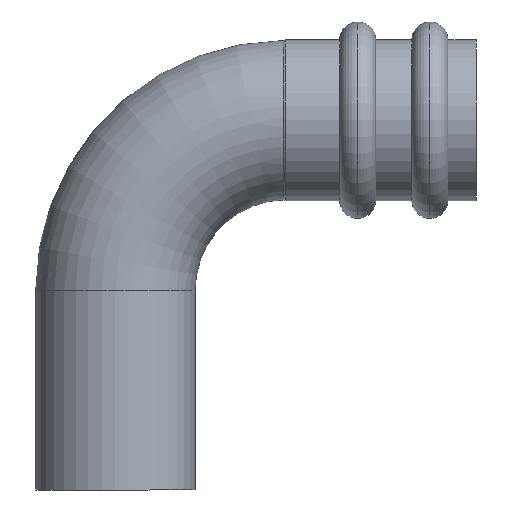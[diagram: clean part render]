
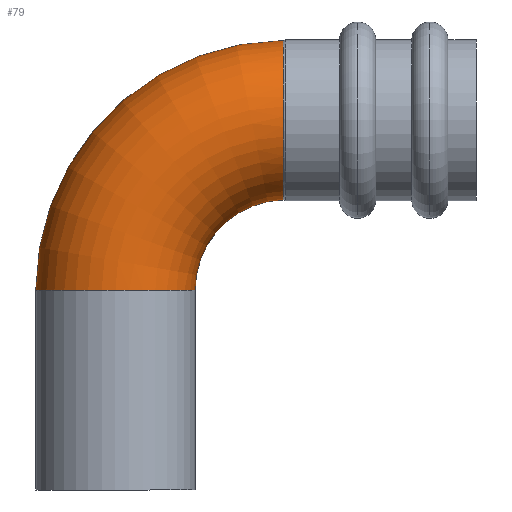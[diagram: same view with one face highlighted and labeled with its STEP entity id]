
A CAD part, front view. The second image highlights one B-rep face of the part: STEP entity #79.
In plain terms, the highlighted toroidal (fillet/blend) face has major radius 33 mm and minor radius 15.466 mm.
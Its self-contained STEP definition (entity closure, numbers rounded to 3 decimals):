
#79=ADVANCED_FACE('',(#202),#203,.T.);
#202=FACE_OUTER_BOUND('',#377,.T.);
#203=TOROIDAL_SURFACE('',#378,33.,15.466);
#377=EDGE_LOOP('',(#553,#554,#555,#556,#557));
#378=AXIS2_PLACEMENT_3D('',#558,#559,#560);
#553=ORIENTED_EDGE('',*,*,#977,.F.);
#554=ORIENTED_EDGE('',*,*,#978,.T.);
#555=ORIENTED_EDGE('',*,*,#979,.T.);
#556=ORIENTED_EDGE('',*,*,#980,.F.);
#557=ORIENTED_EDGE('',*,*,#981,.T.);
#558=CARTESIAN_POINT('',(33.,0.,39.));
#559=DIRECTION('',(0.,1.0,0.));
#560=DIRECTION('',(1.0,0.,0.0));
#977=EDGE_CURVE('',#1145,#1146,#1147,.T.);
#978=EDGE_CURVE('',#1145,#1148,#1149,.T.);
#979=EDGE_CURVE('',#1148,#1150,#1151,.T.);
#980=EDGE_CURVE('',#1152,#1150,#1153,.T.);
#981=EDGE_CURVE('',#1152,#1146,#1154,.T.);
#1145=VERTEX_POINT('',#1500);
#1146=VERTEX_POINT('',#1501);
#1147=CIRCLE('',#1502,48.466);
#1148=VERTEX_POINT('',#1503);
#1149=CIRCLE('',#1504,15.466);
#1150=VERTEX_POINT('',#1505);
#1151=CIRCLE('',#1506,15.466);
#1152=VERTEX_POINT('',#1507);
#1153=CIRCLE('',#1508,17.534);
#1154=B_SPLINE_CURVE_WITH_KNOTS('',3,(#1509,#1510,#1511,#1512,#1513,#1514,#1515,#1516,#1517,#1518,#1519,#1520,#1521,#1522,#1523,#1524,#1525,#1526,#1527,#1528),.UNSPECIFIED.,.F.,.F.,(4,2,2,2,2,2,2,2,2,4),(-1.919,-1.902,-1.658,-1.418,-1.183,-0.948,-0.712,-0.475,-0.238,-0.0),.UNSPECIFIED.);
#1500=CARTESIAN_POINT('',(-15.466,0.,39.));
#1501=CARTESIAN_POINT('',(32.525,0.,87.464));
#1502=AXIS2_PLACEMENT_3D('',#1908,#1909,#1910);
#1503=CARTESIAN_POINT('',(0.,-15.466,39.));
#1504=AXIS2_PLACEMENT_3D('',#1911,#1912,#1913);
#1505=CARTESIAN_POINT('',(15.466,0.,39.));
#1506=AXIS2_PLACEMENT_3D('',#1914,#1915,#1916);
#1507=CARTESIAN_POINT('',(32.546,0.,56.528));
#1508=AXIS2_PLACEMENT_3D('',#1917,#1918,#1919);
#1509=CARTESIAN_POINT('',(32.546,0.,56.528));
#1510=CARTESIAN_POINT('',(32.546,-0.144,56.528));
#1511=CARTESIAN_POINT('',(32.546,-0.287,56.53));
#1512=CARTESIAN_POINT('',(32.546,-2.497,56.592));
#1513=CARTESIAN_POINT('',(32.545,-4.53,57.063));
#1514=CARTESIAN_POINT('',(32.542,-8.258,58.761));
#1515=CARTESIAN_POINT('',(32.541,-9.922,59.959));
#1516=CARTESIAN_POINT('',(32.538,-12.666,62.9));
#1517=CARTESIAN_POINT('',(32.536,-13.731,64.605));
#1518=CARTESIAN_POINT('',(32.533,-15.154,68.323));
#1519=CARTESIAN_POINT('',(32.532,-15.501,70.3));
#1520=CARTESIAN_POINT('',(32.53,-15.426,74.286));
#1521=CARTESIAN_POINT('',(32.529,-15.001,76.257));
#1522=CARTESIAN_POINT('',(32.527,-13.424,79.936));
#1523=CARTESIAN_POINT('',(32.527,-12.283,81.607));
#1524=CARTESIAN_POINT('',(32.526,-9.423,84.425));
#1525=CARTESIAN_POINT('',(32.526,-7.729,85.544));
#1526=CARTESIAN_POINT('',(32.525,-4.007,87.071));
#1527=CARTESIAN_POINT('',(32.525,-2.013,87.464));
#1528=CARTESIAN_POINT('',(32.525,0.,87.464));
#1908=CARTESIAN_POINT('',(33.,0.,39.));
#1909=DIRECTION('',(0.,1.0,0.));
#1910=DIRECTION('',(0.0,0.,1.0));
#1911=CARTESIAN_POINT('',(0.0,0.,39.));
#1912=DIRECTION('',(0.,0.,1.0));
#1913=DIRECTION('',(-1.0,0.,0.));
#1914=CARTESIAN_POINT('',(0.0,0.,39.));
#1915=DIRECTION('',(0.,0.,1.0));
#1916=DIRECTION('',(-1.0,0.,0.));
#1917=CARTESIAN_POINT('',(33.,0.,39.));
#1918=DIRECTION('',(0.,-1.0,0.));
#1919=DIRECTION('',(0.0,0.,1.0));
